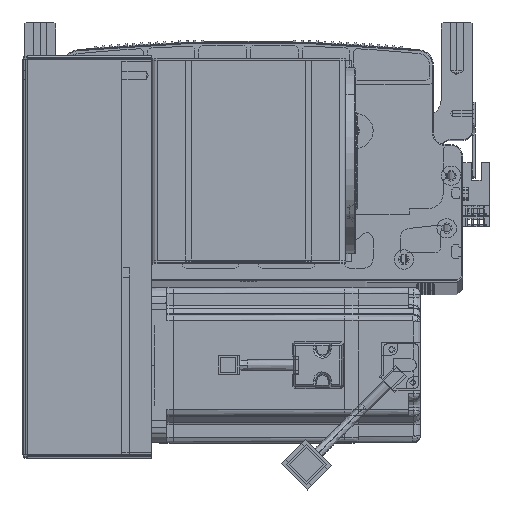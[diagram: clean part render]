
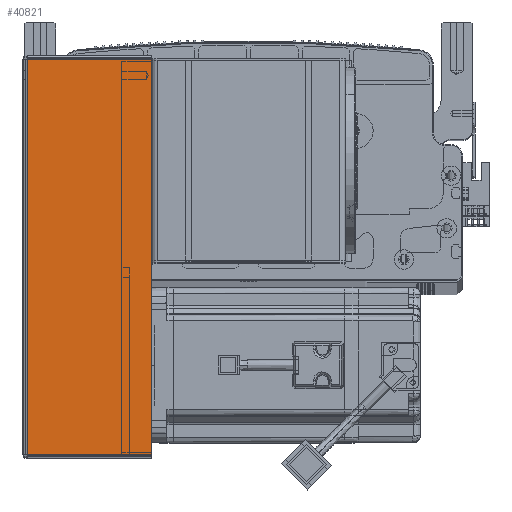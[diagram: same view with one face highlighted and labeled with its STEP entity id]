
A CAD part, top view. The second image highlights one B-rep face of the part: STEP entity #40821.
In plain terms, the highlighted planar face has unit normal (0, 0, 1) as drawn and (0, -1, 0) by its records, which use the part's own axes.
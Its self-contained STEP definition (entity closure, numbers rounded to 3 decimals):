
#3257 = LINE ( 'NONE', #55351, #25675 ) ;
#4851 = EDGE_CURVE ( 'NONE', #64759, #14886, #57234, .T. ) ;
#7541 = VERTEX_POINT ( 'NONE', #25079 ) ;
#14886 = VERTEX_POINT ( 'NONE', #35856 ) ;
#20426 = CARTESIAN_POINT ( 'NONE',  ( 0., -1.5, 0. ) ) ;
#21702 = CARTESIAN_POINT ( 'NONE',  ( 64.5, -1.5, 0. ) ) ;
#23607 = DIRECTION ( 'NONE',  ( 1., 0., 0. ) ) ;
#24424 = CARTESIAN_POINT ( 'NONE',  ( 0., -1.5, -0.707 ) ) ;
#25079 = CARTESIAN_POINT ( 'NONE',  ( 0.737, -1.5, -0.707 ) ) ;
#25675 = VECTOR ( 'NONE', #23607, 1000. ) ;
#27108 = DIRECTION ( 'NONE',  ( 0., 0., 1. ) ) ;
#28403 = VECTOR ( 'NONE', #80187, 1000. ) ;
#33383 = VERTEX_POINT ( 'NONE', #88539 ) ;
#33432 = EDGE_CURVE ( 'NONE', #7541, #14886, #62097, .T. ) ;
#35856 = CARTESIAN_POINT ( 'NONE',  ( 64.5, -1.5, -0.707 ) ) ;
#36020 = VECTOR ( 'NONE', #54140, 1000. ) ;
#40692 = EDGE_CURVE ( 'NONE', #33383, #7541, #89568, .T. ) ;
#40821 = ADVANCED_FACE ( 'NONE', ( #92061 ), #61183, .F. ) ;
#44853 = DIRECTION ( 'NONE',  ( 0., 1., 0. ) ) ;
#54140 = DIRECTION ( 'NONE',  ( 0., 0., 1. ) ) ;
#55351 = CARTESIAN_POINT ( 'NONE',  ( 0., -1.5, -203.293 ) ) ;
#57234 = LINE ( 'NONE', #21702, #36020 ) ;
#61183 = PLANE ( 'NONE',  #97606 ) ;
#62097 = LINE ( 'NONE', #24424, #28403 ) ;
#62236 = DIRECTION ( 'NONE',  ( -1., 0., 0. ) ) ;
#62423 = EDGE_CURVE ( 'NONE', #33383, #64759, #3257, .T. ) ;
#64759 = VERTEX_POINT ( 'NONE', #88619 ) ;
#66828 = CARTESIAN_POINT ( 'NONE',  ( 0.737, -1.5, 0. ) ) ;
#73610 = ORIENTED_EDGE ( 'NONE', *, *, #4851, .T. ) ;
#75859 = VECTOR ( 'NONE', #27108, 1000. ) ;
#76463 = ORIENTED_EDGE ( 'NONE', *, *, #33432, .F. ) ;
#80187 = DIRECTION ( 'NONE',  ( 1., 0., 0. ) ) ;
#82036 = ORIENTED_EDGE ( 'NONE', *, *, #40692, .F. ) ;
#88539 = CARTESIAN_POINT ( 'NONE',  ( 0.737, -1.5, -203.293 ) ) ;
#88619 = CARTESIAN_POINT ( 'NONE',  ( 64.5, -1.5, -203.293 ) ) ;
#89568 = LINE ( 'NONE', #66828, #75859 ) ;
#92061 = FACE_OUTER_BOUND ( 'NONE', #100915, .T. ) ;
#94453 = ORIENTED_EDGE ( 'NONE', *, *, #62423, .T. ) ;
#97606 = AXIS2_PLACEMENT_3D ( 'NONE', #20426, #44853, #62236 ) ;
#100915 = EDGE_LOOP ( 'NONE', ( #82036, #94453, #73610, #76463 ) ) ;
